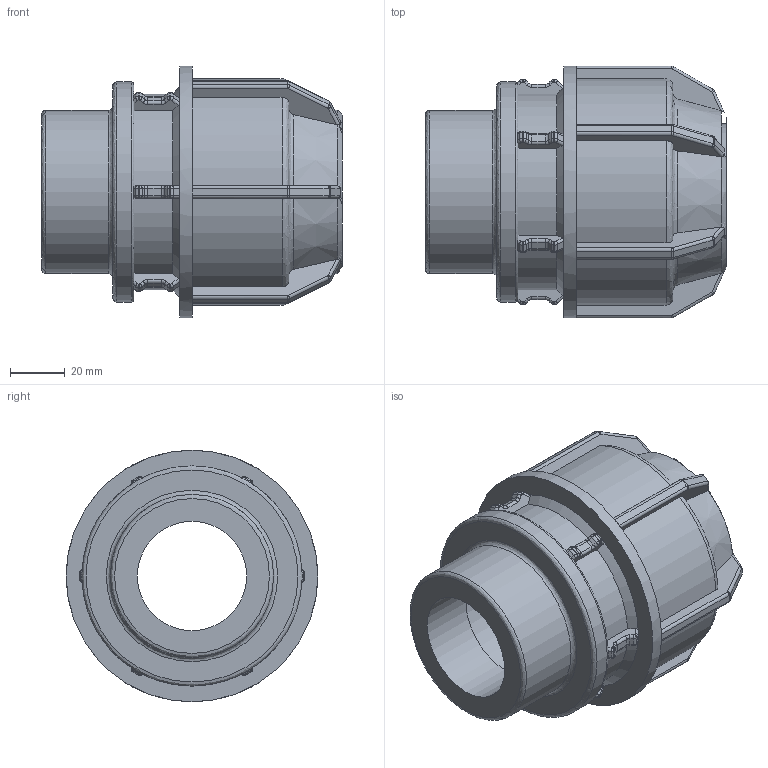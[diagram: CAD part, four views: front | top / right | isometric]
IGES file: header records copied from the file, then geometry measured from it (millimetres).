
Global section: file name: 140200050020.ipt; native system: Autodesk Inventor 2015; preprocessor: unknown; author: KIM; date: 20180409.130941; units: millimetre
Bounding box: 110 x 92 x 92 mm (x, y, z)
Volume: 270522 mm3; surface area: 56798.6 mm2
Topology: 1 solids, 1 shells, 470 faces, 1170 edges, 701 vertices
Faces by surface type: cylinder 171, plane 158, revolution 129, cone 12
Full cylindrical faces by diameter (mm): 59.614 x1, 80.479 x1, 92 x1
